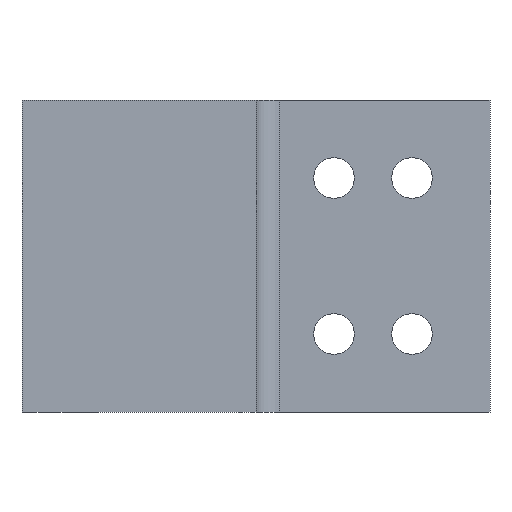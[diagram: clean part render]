
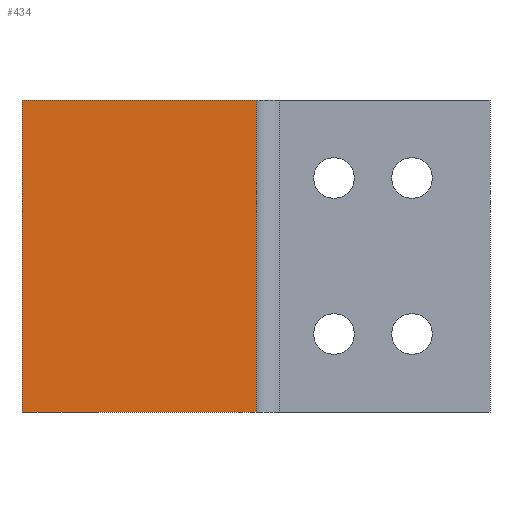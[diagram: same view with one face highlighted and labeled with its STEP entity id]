
A CAD part, front view. The second image highlights one B-rep face of the part: STEP entity #434.
In plain terms, the highlighted planar face has unit normal (0, -1, 0).
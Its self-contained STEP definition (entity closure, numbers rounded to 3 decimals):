
#414=AXIS2_PLACEMENT_3D('Plane Axis2P3D',#411,#412,#413) ;
#294=CARTESIAN_POINT('Vertex',(30.,-20.,0.)) ;
#299=CARTESIAN_POINT('Line Origine',(15.,-20.,0.)) ;
#303=CARTESIAN_POINT('Vertex',(0.,-20.,0.)) ;
#396=CARTESIAN_POINT('Vertex',(30.,-20.,40.)) ;
#399=CARTESIAN_POINT('Line Origine',(30.,-20.,20.)) ;
#411=CARTESIAN_POINT('Axis2P3D Location',(30.,-20.,0.)) ;
#416=CARTESIAN_POINT('Line Origine',(0.,-20.,20.)) ;
#420=CARTESIAN_POINT('Vertex',(0.,-20.,40.)) ;
#423=CARTESIAN_POINT('Line Origine',(15.,-20.,40.)) ;
#300=DIRECTION('Vector Direction',(-1.,0.,0.)) ;
#400=DIRECTION('Vector Direction',(0.,0.,1.)) ;
#412=DIRECTION('Axis2P3D Direction',(0.,1.,-0.)) ;
#413=DIRECTION('Axis2P3D XDirection',(-1.,0.,0.)) ;
#417=DIRECTION('Vector Direction',(0.,0.,1.)) ;
#424=DIRECTION('Vector Direction',(-1.,0.,0.)) ;
#301=VECTOR('Line Direction',#300,1.) ;
#401=VECTOR('Line Direction',#400,1.) ;
#418=VECTOR('Line Direction',#417,1.) ;
#425=VECTOR('Line Direction',#424,1.) ;
#429=ORIENTED_EDGE('',*,*,#422,.F.) ;
#430=ORIENTED_EDGE('',*,*,#305,.T.) ;
#431=ORIENTED_EDGE('',*,*,#403,.T.) ;
#432=ORIENTED_EDGE('',*,*,#427,.F.) ;
#434=ADVANCED_FACE('\X2\96F64EF651E04F554F53\X0\',(#433),#415,.F.) ;
#305=EDGE_CURVE('',#304,#295,#302,.F.) ;
#403=EDGE_CURVE('',#295,#397,#402,.T.) ;
#422=EDGE_CURVE('',#304,#421,#419,.T.) ;
#427=EDGE_CURVE('',#421,#397,#426,.F.) ;
#428=EDGE_LOOP('',(#429,#430,#431,#432)) ;
#433=FACE_OUTER_BOUND('',#428,.T.) ;
#302=LINE('Line',#299,#301) ;
#402=LINE('Line',#399,#401) ;
#419=LINE('Line',#416,#418) ;
#426=LINE('Line',#423,#425) ;
#415=PLANE('',#414) ;
#295=VERTEX_POINT('',#294) ;
#304=VERTEX_POINT('',#303) ;
#397=VERTEX_POINT('',#396) ;
#421=VERTEX_POINT('',#420) ;
